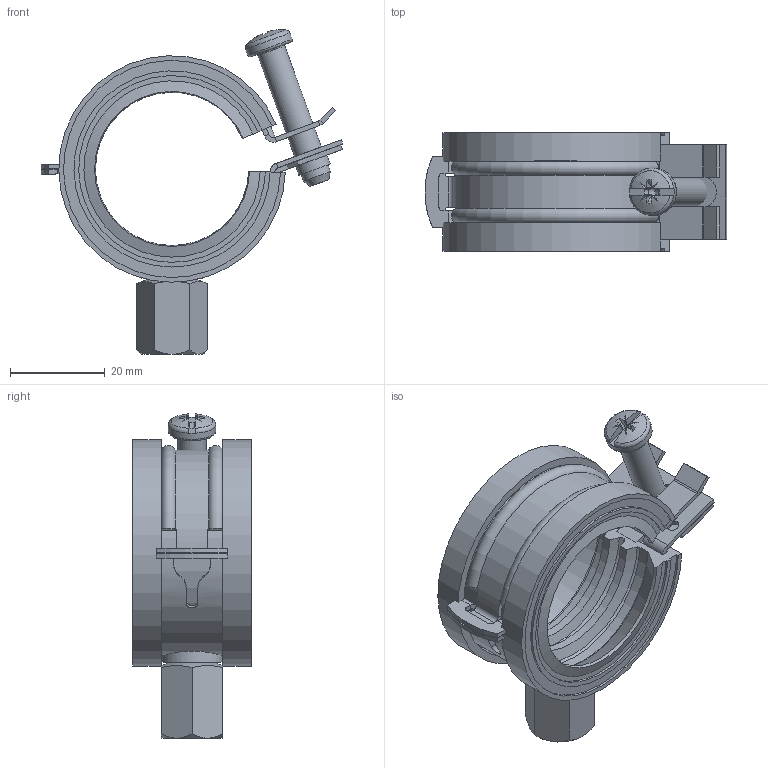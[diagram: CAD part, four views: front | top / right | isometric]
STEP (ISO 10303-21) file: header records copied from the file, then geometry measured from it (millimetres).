
FILE_DESCRIPTION(/* description */ (''),/* implementation_level */ '2;1');
FILE_NAME(/* name */ 'Schelle_Gr. 1_301664.stp',/* time_stamp */ '2024-11-07T08:14:24+01:00',/* author */ ('ASc'),/* organization */ (''),/* preprocessor_version */ 'ST-DEVELOPER v19.2',/* originating_system */ 'Autodesk Inventor 2023',/* authorisation */ '');
FILE_SCHEMA (('AUTOMOTIVE_DESIGN { 1 0 10303 214 3 1 1 }'));
Length unit declared in the file: millimetre
Products named in the file (1): Schelle_Gr. 1_301664
Bounding box: 63.72 x 25.23 x 68.48 mm (x, y, z)
Volume: 17435.5 mm3; surface area: 21269.2 mm2
Topology: 6 solids, 6 shells, 270 faces, 706 edges, 447 vertices
Faces by surface type: plane 152, cylinder 60, cone 30, bspline 19, torus 6, sphere 3
Full cylindrical faces by diameter (mm): 2.5 x2, 5 x1, 6 x1, 6.8 x1, 7 x1, 8.5 x1, 10 x1, 10.5 x1, 13 x1
Entity records: 9401 total; most frequent: CARTESIAN_POINT 2481, ORIENTED_EDGE 1410, DIRECTION 1348, EDGE_CURVE 705, AXIS2_PLACEMENT_3D 473, VERTEX_POINT 447, LINE 402, VECTOR 402
